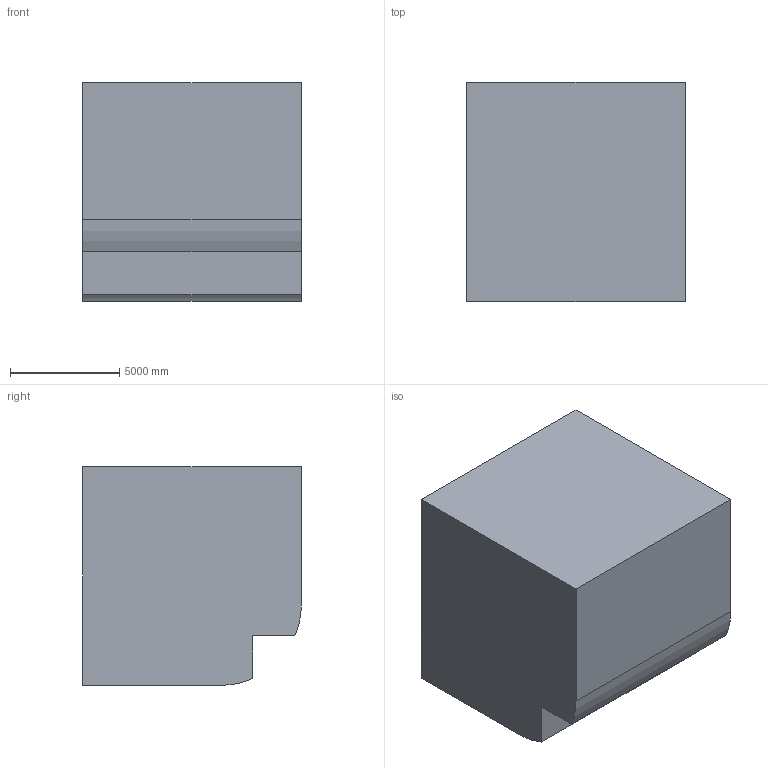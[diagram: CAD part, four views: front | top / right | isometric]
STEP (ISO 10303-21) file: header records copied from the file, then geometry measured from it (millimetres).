
FILE_DESCRIPTION (( 'STEP AP203' ), '1' );
FILE_NAME ('112.STEP', '2022-09-06T13:17:52', ( 'user' ), ( '' ), 'SwSTEP 2.0', 'SolidWorks 2021', '' );
FILE_SCHEMA (( 'CONFIG_CONTROL_DESIGN' ));
Length unit declared in the file: centimetre
Products named in the file (1): 112
Bounding box: 10000 x 10000 x 10000 mm (x, y, z)
Volume: 946430861457.3 mm3; surface area: 583980123.2 mm2
Topology: 1 solids, 1 shells, 10 faces, 24 edges, 16 vertices
Faces by surface type: plane 8, cylinder 2
Entity records: 369 total; most frequent: CARTESIAN_POINT 51, DIRECTION 50, ORIENTED_EDGE 48, EDGE_CURVE 24, VECTOR 20, LINE 20, VERTEX_POINT 16, AXIS2_PLACEMENT_3D 15
